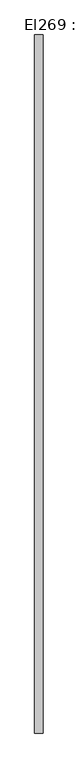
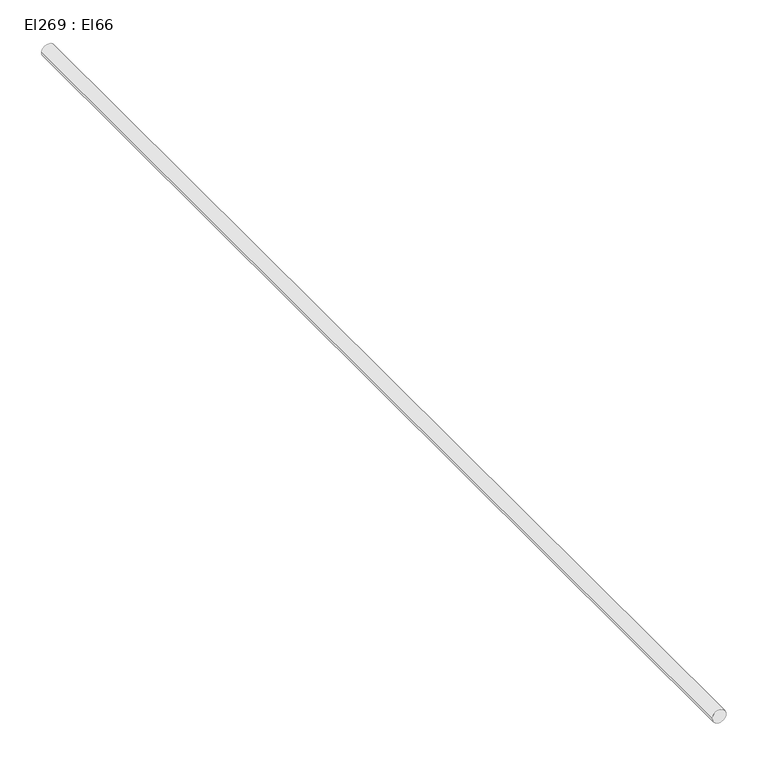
"""IFC4 building model written with IfcOpenShell, lengths in millimetres: cable carrier segment geometry, El269 : El66."""

from ifc_helpers import new_model, si_unit, point, frame, frame_2d, origin, place, context, project, spatial, circle_curve, trimmed, segment, composite_curve, outline, extrude, source, transform, mapped, element, save


def el269_el66_d4b34e1a(model_context):
    return source(origin(), model_context, "Body", "SweptSolid", [
        extrude(outline(composite_curve([segment(trimmed(circle_curve(frame_2d((2700.0, 15064.4746511)), 9.5), [point((2700.0, 15054.9746511))], [point((2700.0, 15073.9746511))], False, "CARTESIAN"), True, "CONTINUOUS"), segment(trimmed(circle_curve(frame_2d((2700.0, 15064.4746511)), 9.5), [point((2700.0, 15073.9746511))], [point((2700.0, 15054.9746511))], False, "CARTESIAN"), True, "CONTINUOUS")], self_intersect=False)), frame((0.0, 8196.0291745, 0.0), z_axis=(0.0, 1.0, 0.0), x_axis=(0.0, 0.0, 1.0)), (0.0, 0.0, 1.0), 1606.17),
    ])


if __name__ == "__main__":
    model = new_model("IFC4")
    model_context = context("Model", 3, world=origin())
    ifc_project = project(units=[si_unit("LENGTHUNIT", "METRE", prefix="MILLI")], contexts=[model_context])
    site = spatial("IfcSite", under=ifc_project)
    building = spatial("IfcBuilding", under=site)
    placement = place(None, origin())
    el269_el66_shape = el269_el66_d4b34e1a(model_context)
    element("IfcCableCarrierSegment", 1, ObjectType="El269 : El66", at=placement, inside=building, context=model_context, shape_type="MappedRepresentation", body=[
        mapped(el269_el66_shape, transform((0.0, 0.0, 0.0), x_axis=(1.0, 0.0, 0.0), y_axis=(0.0, 1.0, 0.0), z_axis=(0.0, 0.0, 1.0))),
    ])
    save(model, "model.ifc")
